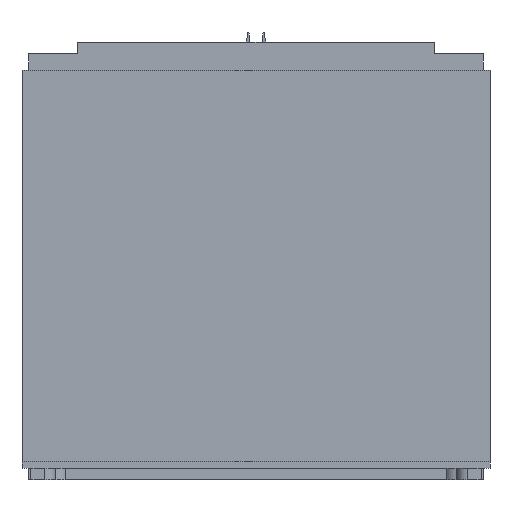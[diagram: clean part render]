
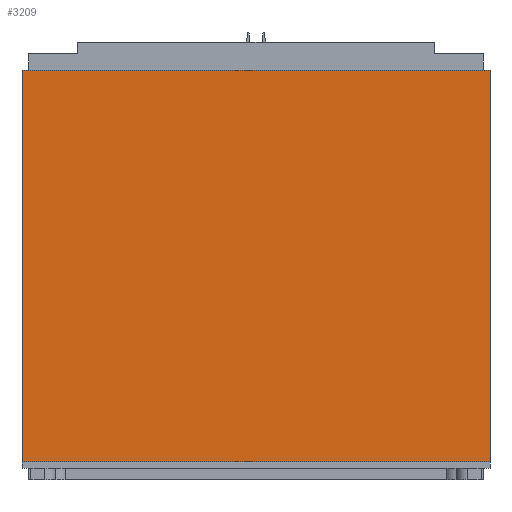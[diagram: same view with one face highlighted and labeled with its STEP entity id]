
A CAD part, front view. The second image highlights one B-rep face of the part: STEP entity #3209.
In plain terms, the highlighted planar face has unit normal (0, -1, 0).
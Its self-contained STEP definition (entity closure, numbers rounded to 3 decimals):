
#192 = CARTESIAN_POINT ( 'NONE',  ( -105., -114., 314.3 ) ) ;
#401 = VECTOR ( 'NONE', #1905, 1000. ) ;
#490 = VERTEX_POINT ( 'NONE', #192 ) ;
#601 = DIRECTION ( 'NONE',  ( 0., 0., -1. ) ) ;
#663 = FACE_OUTER_BOUND ( 'NONE', #4755, .T. ) ;
#823 = EDGE_CURVE ( 'NONE', #4463, #1020, #4685, .T. ) ;
#844 = CARTESIAN_POINT ( 'NONE',  ( -105., -114., 138.6 ) ) ;
#865 = DIRECTION ( 'NONE',  ( 1., 0., 0. ) ) ;
#920 = ORIENTED_EDGE ( 'NONE', *, *, #823, .F. ) ;
#1020 = VERTEX_POINT ( 'NONE', #2329 ) ;
#1541 = ORIENTED_EDGE ( 'NONE', *, *, #3766, .T. ) ;
#1761 = CARTESIAN_POINT ( 'NONE',  ( -105., -114., 138.6 ) ) ;
#1873 = LINE ( 'NONE', #1761, #5569 ) ;
#1905 = DIRECTION ( 'NONE',  ( 1., 0., 0. ) ) ;
#2251 = DIRECTION ( 'NONE',  ( 0., 0., -1. ) ) ;
#2266 = CARTESIAN_POINT ( 'NONE',  ( -105., -114., 314.3 ) ) ;
#2294 = DIRECTION ( 'NONE',  ( 0., 0., -1. ) ) ;
#2329 = CARTESIAN_POINT ( 'NONE',  ( 105., -114., 138.6 ) ) ;
#2386 = LINE ( 'NONE', #3663, #401 ) ;
#2437 = LINE ( 'NONE', #5408, #4354 ) ;
#2667 = DIRECTION ( 'NONE',  ( 0., -1., 0. ) ) ;
#2950 = ORIENTED_EDGE ( 'NONE', *, *, #3338, .T. ) ;
#3087 = VERTEX_POINT ( 'NONE', #844 ) ;
#3209 = ADVANCED_FACE ( 'NONE', ( #663 ), #3550, .T. ) ;
#3338 = EDGE_CURVE ( 'NONE', #490, #3087, #2437, .T. ) ;
#3371 = AXIS2_PLACEMENT_3D ( 'NONE', #2266, #2667, #2251 ) ;
#3483 = CARTESIAN_POINT ( 'NONE',  ( 105., -114., 314.3 ) ) ;
#3550 = PLANE ( 'NONE',  #3371 ) ;
#3663 = CARTESIAN_POINT ( 'NONE',  ( -105., -114., 314.3 ) ) ;
#3766 = EDGE_CURVE ( 'NONE', #3087, #1020, #1873, .T. ) ;
#4019 = CARTESIAN_POINT ( 'NONE',  ( 105., -114., 314.3 ) ) ;
#4354 = VECTOR ( 'NONE', #601, 1000. ) ;
#4463 = VERTEX_POINT ( 'NONE', #3483 ) ;
#4685 = LINE ( 'NONE', #4019, #4902 ) ;
#4755 = EDGE_LOOP ( 'NONE', ( #1541, #920, #5353, #2950 ) ) ;
#4902 = VECTOR ( 'NONE', #2294, 1000. ) ;
#5353 = ORIENTED_EDGE ( 'NONE', *, *, #5585, .F. ) ;
#5408 = CARTESIAN_POINT ( 'NONE',  ( -105., -114., 314.3 ) ) ;
#5569 = VECTOR ( 'NONE', #865, 1000. ) ;
#5585 = EDGE_CURVE ( 'NONE', #490, #4463, #2386, .T. ) ;
